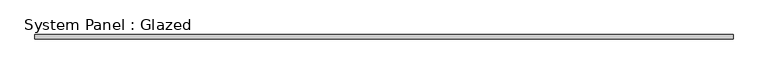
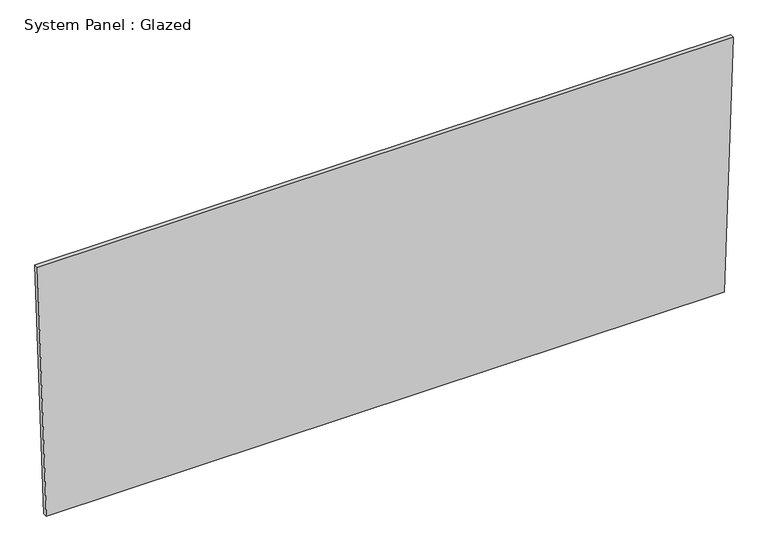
"""IFC4 building model written with IfcOpenShell, lengths in millimetres: plate geometry, System Panel : Glazed."""

from ifc_helpers import new_model, si_unit, frame, origin, place, context, project, spatial, polyline, outline, extrude, source, transform, mapped, element, save


def system_panel_glazed_c8d27067(model_context):
    return source(origin(), model_context, "Body", "SweptSolid", [
        extrude(outline(polyline([(0.0, -1940.3878862), (0.0, 1940.3878862), (1523.1689838, 1990.7093222), (1523.1689838, -1990.7093222), (0.0, -1940.3878862)])), frame((0.0, -44.45, 0.0), z_axis=(0.0, 1.0, 0.0), x_axis=(0.0, 0.0, 1.0)), (0.0, 0.0, 1.0), 25.4),
    ])


if __name__ == "__main__":
    model = new_model("IFC4")
    model_context = context("Model", 3, world=origin())
    ifc_project = project(units=[si_unit("LENGTHUNIT", "METRE", prefix="MILLI")], contexts=[model_context])
    site = spatial("IfcSite", under=ifc_project)
    building = spatial("IfcBuilding", under=site)
    placement = place(None, origin())
    system_panel_glazed_shape = system_panel_glazed_c8d27067(model_context)
    element("IfcPlate", 1, ObjectType="System Panel : Glazed", at=placement, inside=building, context=model_context, shape_type="MappedRepresentation", body=[
        mapped(system_panel_glazed_shape, transform((0.0, 0.0, 0.0), x_axis=(1.0, 0.0, 0.0), y_axis=(0.0, 1.0, 0.0), z_axis=(0.0, 0.0, 1.0))),
    ])
    save(model, "model.ifc")
